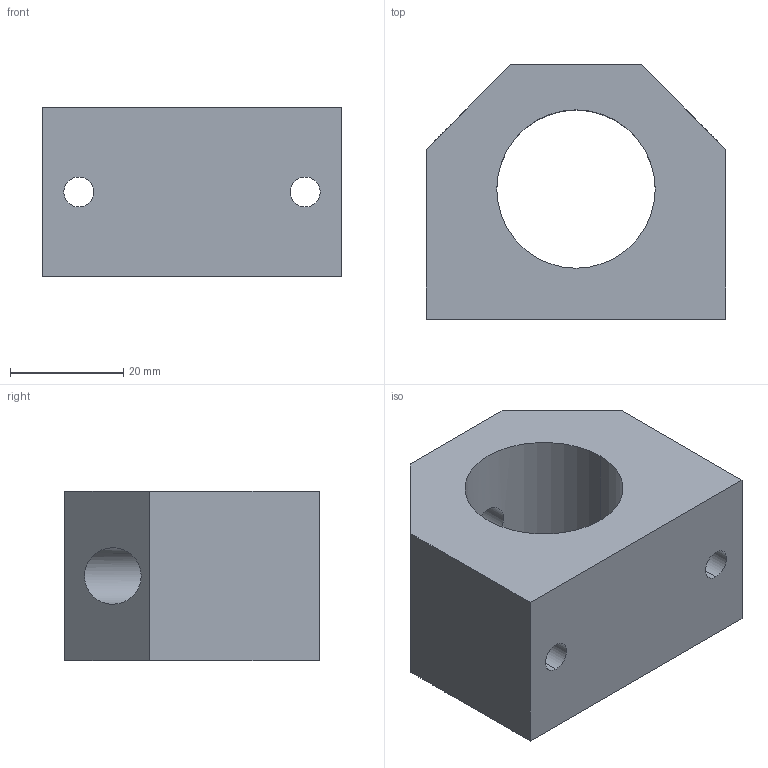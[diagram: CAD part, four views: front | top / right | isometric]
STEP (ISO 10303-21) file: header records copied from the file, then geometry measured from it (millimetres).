
FILE_DESCRIPTION (( 'STEP AP214' ), '1' );
FILE_NAME ('KGC27-20.step', '2020-03-04T13:06:57', ( '' ), ( '' ), 'SwSTEP 2.0', 'SolidWorks 2019', '' );
FILE_SCHEMA (( 'AUTOMOTIVE_DESIGN' ));
Length unit declared in the file: millimetre
Products named in the file (1): KGC27-20
Bounding box: 53 x 45 x 30 mm (x, y, z)
Volume: 42766.6 mm3; surface area: 12674.1 mm2
Topology: 1 solids, 1 shells, 22 faces, 54 edges, 36 vertices
Faces by surface type: cylinder 12, plane 10
Entity records: 832 total; most frequent: CARTESIAN_POINT 189, DIRECTION 112, ORIENTED_EDGE 108, EDGE_CURVE 54, AXIS2_PLACEMENT_3D 41, VERTEX_POINT 36, EDGE_LOOP 32, VECTOR 30
